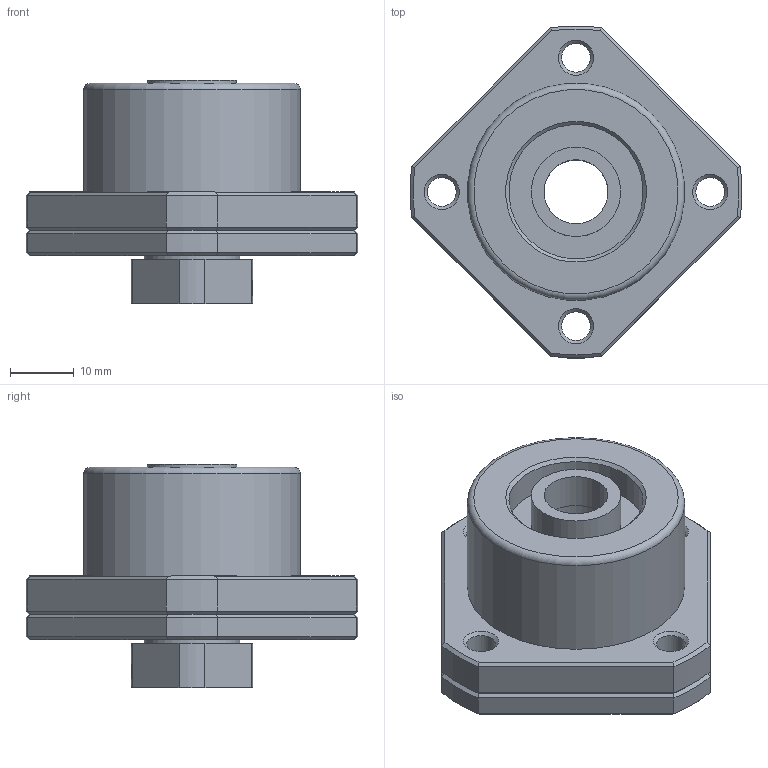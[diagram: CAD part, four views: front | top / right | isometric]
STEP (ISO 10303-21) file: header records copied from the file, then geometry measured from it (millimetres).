
FILE_DESCRIPTION(/* description */ (''),/* implementation_level */ '2;1');
FILE_NAME(/* name */ 'FK10.stp',/* time_stamp */ '2019-12-25T15:03:04+08:00',/* author */ (''),/* organization */ (''),/* preprocessor_version */ 'ST-DEVELOPER v14',/* originating_system */ 'SIEMENS PLM Software NX 8.0',/* authorisation */ '');
FILE_SCHEMA (('AUTOMOTIVE_DESIGN { 1 0 10303 214 3 1 1 1 }'));
Length unit declared in the file: millimetre
Products named in the file (6): M10; GT-14-10-5.5; 7000; FK10-SUB; FK10-LID; FK10
Assembly tree (7 placements, depth 2):
  FK10
    FK10-LID
    FK10-SUB
    7000  x2
    GT-14-10-5.5  x2
    M10
Bounding box: 51.93 x 51.93 x 35 mm (x, y, z)
Volume: 27346.4 mm3; surface area: 17161.3 mm2
Topology: 7 solids, 7 shells, 134 faces, 308 edges, 193 vertices
Faces by surface type: plane 51, cylinder 46, cone 34, torus 3
Full cylindrical faces by diameter (mm): 2.5 x2, 4 x4, 4.5 x8, 8 x4, 10 x5, 14 x2, 15 x1, 21 x2, 22 x1, 26 x4, 34 x1
Entity records: 3661 total; most frequent: CARTESIAN_POINT 860, DIRECTION 570, ORIENTED_EDGE 450, AXIS2_PLACEMENT_3D 251, EDGE_CURVE 225, EDGE_LOOP 220, VERTEX_POINT 165, FACE_BOUND 162
